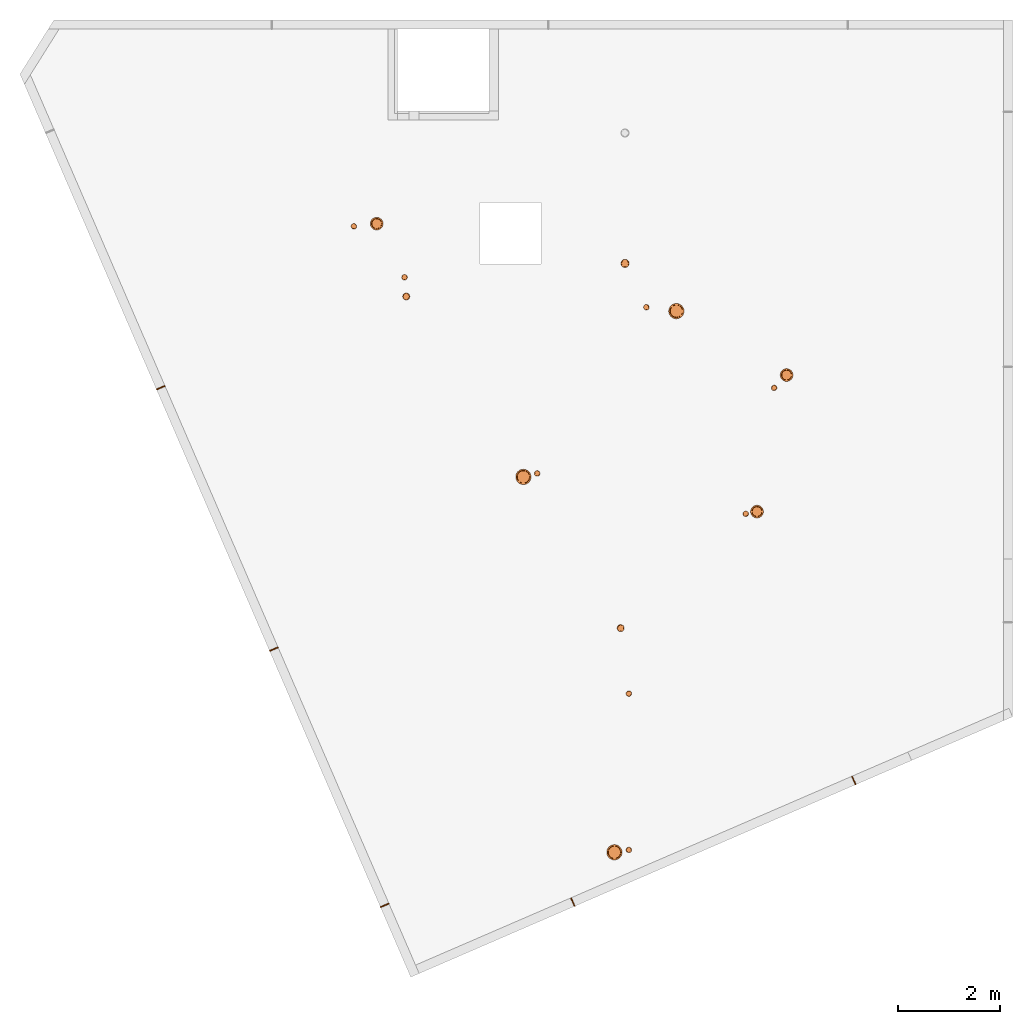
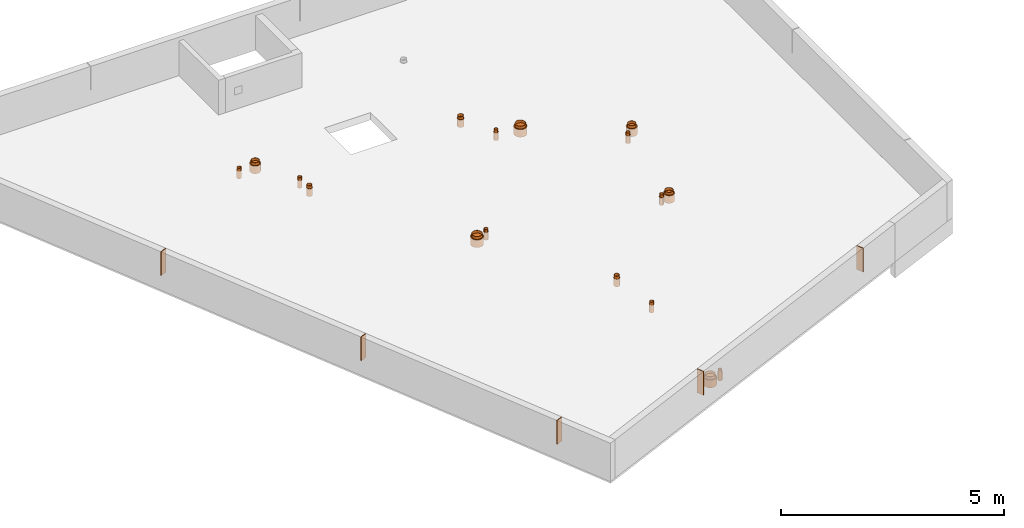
# One storey, part 4 of 12: 22 proxies.
"""IFC2X3 building model written with IfcOpenShell, lengths in centimetres."""

from ifc_helpers import new_model, entity, si_unit, converted_unit, derived_unit, direction, frame, frame_2d, origin, place, context, subcontext, project, spatial, rectangle, circle, hollow_circle, extrude, source, transform, mapped, material, type_object, type_shapes, element, save


model = new_model("IFC2X3")

# Units and contexts
model_context = context("Model", 3, precision=0.001, world=origin(), true_north=direction((6.12303176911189e-17, 1.0)))
body_context = subcontext(model_context, "Body", "Model", "MODEL_VIEW")
ifc_project = project(units=[si_unit("LENGTHUNIT", "METRE", prefix="CENTI"), si_unit("AREAUNIT", "SQUARE_METRE"), si_unit("VOLUMEUNIT", "CUBIC_METRE"), converted_unit("PLANEANGLEUNIT", "DEGREE", entity("IfcRatioMeasure", 0.0174532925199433), si_unit("PLANEANGLEUNIT", "RADIAN"), dimensions=[0, 0, 0, 0, 0, 0, 0]), si_unit("MASSUNIT", "GRAM", prefix="KILO"), derived_unit("MASSDENSITYUNIT", [(si_unit("MASSUNIT", "GRAM", prefix="KILO"), 1), (si_unit("LENGTHUNIT", "METRE"), -3)]), si_unit("TIMEUNIT", "SECOND"), si_unit("FREQUENCYUNIT", "HERTZ"), si_unit("THERMODYNAMICTEMPERATUREUNIT", "DEGREE_CELSIUS"), derived_unit("THERMALTRANSMITTANCEUNIT", [(si_unit("MASSUNIT", "GRAM", prefix="KILO"), 1), (si_unit("THERMODYNAMICTEMPERATUREUNIT", "KELVIN"), -1), (si_unit("TIMEUNIT", "SECOND"), -3)]), derived_unit("VOLUMETRICFLOWRATEUNIT", [(si_unit("LENGTHUNIT", "METRE"), 3), (si_unit("TIMEUNIT", "SECOND"), -1)]), si_unit("ELECTRICCURRENTUNIT", "AMPERE"), si_unit("ELECTRICVOLTAGEUNIT", "VOLT"), si_unit("POWERUNIT", "WATT"), si_unit("FORCEUNIT", "NEWTON"), si_unit("ILLUMINANCEUNIT", "LUX"), si_unit("LUMINOUSFLUXUNIT", "LUMEN"), si_unit("LUMINOUSINTENSITYUNIT", "CANDELA"), derived_unit("USERDEFINED", [(si_unit("MASSUNIT", "GRAM", prefix="KILO"), -1), (si_unit("LENGTHUNIT", "METRE"), -2), (si_unit("TIMEUNIT", "SECOND"), 3), (si_unit("LUMINOUSFLUXUNIT", "LUMEN"), 1)]), derived_unit("LINEARVELOCITYUNIT", [(si_unit("LENGTHUNIT", "METRE"), 1), (si_unit("TIMEUNIT", "SECOND"), -1)]), si_unit("PRESSUREUNIT", "PASCAL"), derived_unit("USERDEFINED", [(si_unit("LENGTHUNIT", "METRE"), -2), (si_unit("MASSUNIT", "GRAM", prefix="KILO"), 1), (si_unit("TIMEUNIT", "SECOND"), -2)])], contexts=[model_context])

# Site, building, storey
site_placement = place(None, origin())
site = spatial("IfcSite", under=ifc_project, at=site_placement, Name="Default", CompositionType="ELEMENT")
building_placement = place(site_placement, origin())
building = spatial("IfcBuilding", under=site, at=building_placement, Name="CAGE 03", CompositionType="ELEMENT")
storey_placement = place(building_placement, frame((0.0, 0.0, 1690.0)))
storey = spatial("IfcBuildingStorey", under=building, at=storey_placement, Name="R+6", CompositionType="ELEMENT", Elevation=1690.0)

# Proxies
ifc_material_1 = material(Name="BBGO_Résa")
building_element_proxy_type_1 = type_object("IfcBuildingElementProxyType", Name="J.F.", PredefinedType="NOTDEFINED", material=ifc_material_1)
shared_shape_1 = source(origin(), body_context, "Body", "SweptSolid", [
    extrude(rectangle(XDim=17.9999999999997, YDim=1.99999999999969, at=frame_2d((3.70370401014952e-13, 3.11528580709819e-13), x_axis=(1.0, 0.0))), frame((3208.69608971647, 4408.08004055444, 1730.0), z_axis=(0.0, 0.0, 1.0), x_axis=(0.917772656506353, 0.397106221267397, 0.0)), (0.0, 0.0, 1.0), 64.9999999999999),
])
type_shapes(building_element_proxy_type_1, [shared_shape_1])
proxy_1_placement = place(storey_placement, frame((0.0, 0.0, -1690.0)))
element("IfcBuildingElementProxy", 1, at=proxy_1_placement, inside=storey, type_object=building_element_proxy_type_1, material=ifc_material_1, Name="BBGO-Résa rect et circ:J.F.", ObjectType="J.F.", context=body_context, shape_type="MappedRepresentation", body=[
    mapped(shared_shape_1, transform((0.0, 0.0, 0.0), scale=1.0)),
])
building_element_proxy_type_2 = type_object("IfcBuildingElementProxyType", Name="J.F.", PredefinedType="NOTDEFINED", material=ifc_material_1)
shared_shape_2 = source(origin(), body_context, "Body", "SweptSolid", [
    extrude(rectangle(XDim=18.0000000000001, YDim=2.00000000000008, at=frame_2d((2.8421709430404e-13, 1.12909681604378e-13), x_axis=(1.0, 0.0))), frame((3430.47991429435, 3895.50401189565, 1730.0), z_axis=(0.0, 0.0, 1.0), x_axis=(0.917772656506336, 0.397106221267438, 0.0)), (0.0, 0.0, 1.0), 64.9999999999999),
])
type_shapes(building_element_proxy_type_2, [shared_shape_2])
proxy_2_placement = place(storey_placement, frame((0.0, 0.0, -1690.0)))
element("IfcBuildingElementProxy", 2, at=proxy_2_placement, inside=storey, type_object=building_element_proxy_type_2, material=ifc_material_1, Name="BBGO-Résa rect et circ:J.F.", ObjectType="J.F.", context=body_context, shape_type="MappedRepresentation", body=[
    mapped(shared_shape_2, transform((0.0, 0.0, 0.0), scale=1.0)),
])
building_element_proxy_type_3 = type_object("IfcBuildingElementProxyType", Name="J.F.", PredefinedType="NOTDEFINED", material=ifc_material_1)
shared_shape_3 = source(origin(), body_context, "Body", "SweptSolid", [
    extrude(rectangle(XDim=18.0000000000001, YDim=2.00000000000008, at=frame_2d((2.8421709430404e-13, 1.12909681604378e-13), x_axis=(1.0, 0.0))), frame((3647.69701732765, 3393.48236878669, 1730.0), z_axis=(0.0, 0.0, 1.0), x_axis=(0.917772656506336, 0.397106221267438, 0.0)), (0.0, 0.0, 1.0), 64.9999999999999),
])
type_shapes(building_element_proxy_type_3, [shared_shape_3])
proxy_3_placement = place(storey_placement, frame((0.0, 0.0, -1690.0)))
element("IfcBuildingElementProxy", 3, at=proxy_3_placement, inside=storey, type_object=building_element_proxy_type_3, material=ifc_material_1, Name="BBGO-Résa rect et circ:J.F.", ObjectType="J.F.", context=body_context, shape_type="MappedRepresentation", body=[
    mapped(shared_shape_3, transform((0.0, 0.0, 0.0), scale=1.0)),
])
building_element_proxy_type_4 = type_object("IfcBuildingElementProxyType", Name="J.F.", PredefinedType="NOTDEFINED", material=ifc_material_1)
shared_shape_4 = source(origin(), body_context, "Body", "SweptSolid", [
    extrude(rectangle(XDim=18.0, YDim=2.00000000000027, at=frame_2d((-1.72306613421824e-13, -3.97237798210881e-13), x_axis=(1.0, 0.0))), frame((4016.45091728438, 3399.94853199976, 1730.0), z_axis=(0.0, 0.0, 1.0), x_axis=(-0.397106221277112, 0.91777265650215, 0.0)), (0.0, 0.0, 1.0), 64.9999999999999),
])
type_shapes(building_element_proxy_type_4, [shared_shape_4])
proxy_4_placement = place(storey_placement, frame((0.0, 0.0, -1690.0)))
element("IfcBuildingElementProxy", 4, at=proxy_4_placement, inside=storey, type_object=building_element_proxy_type_4, material=ifc_material_1, Name="BBGO-Résa rect et circ:J.F.", ObjectType="J.F.", context=body_context, shape_type="MappedRepresentation", body=[
    mapped(shared_shape_4, transform((0.0, 0.0, 0.0), scale=1.0)),
])
building_element_proxy_type_5 = type_object("IfcBuildingElementProxyType", Name="J.F.", PredefinedType="NOTDEFINED", material=ifc_material_1)
shared_shape_5 = source(origin(), body_context, "Body", "SweptSolid", [
    extrude(rectangle(XDim=18.0, YDim=2.00000000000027, at=frame_2d((1.72306613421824e-13, 3.97237798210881e-13), x_axis=(1.0, 0.0))), frame((4567.11451118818, 3638.21226476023, 1730.0), z_axis=(0.0, 0.0, 1.0), x_axis=(-0.397106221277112, 0.91777265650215, 0.0)), (0.0, 0.0, 1.0), 64.9999999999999),
])
type_shapes(building_element_proxy_type_5, [shared_shape_5])
proxy_5_placement = place(storey_placement, frame((0.0, 0.0, -1690.0)))
element("IfcBuildingElementProxy", 5, at=proxy_5_placement, inside=storey, type_object=building_element_proxy_type_5, material=ifc_material_1, Name="BBGO-Résa rect et circ:J.F.", ObjectType="J.F.", context=body_context, shape_type="MappedRepresentation", body=[
    mapped(shared_shape_5, transform((0.0, 0.0, 0.0), scale=1.0)),
])
ifc_material_2 = material(Name="Conduit EP")
building_element_proxy_type_6 = type_object("IfcBuildingElementProxyType", Name="CFO160 P150", PredefinedType="NOTDEFINED", material=ifc_material_2)
shared_shape_6 = source(origin(), body_context, "Body", "SweptSolid", [
    extrude(circle(Radius=8.0, at=frame_2d((0.0, -1.29243565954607e-14), x_axis=(1.0, 0.0))), frame((0.0, 0.0, -21.0)), (0.0, 0.0, 1.0), 21.0),
    extrude(hollow_circle(Radius=7.0, WallThickness=0.25, at=frame_2d((0.0, -1.13088120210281e-14), x_axis=(1.0, 0.0))), frame((0.0, 0.0, -21.0)), (0.0, 0.0, 1.0), 28.5),
])
type_shapes(building_element_proxy_type_6, [shared_shape_6])
proxy_6_placement = place(storey_placement, frame((4118.7448452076, 4651.62070743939, 0.0)))
element("IfcBuildingElementProxy", 6, at=proxy_6_placement, inside=storey, type_object=building_element_proxy_type_6, material=ifc_material_2, Name="Galette - Résa - PVC5:CFO160 P150", ObjectType="CFO160 P150", context=body_context, shape_type="MappedRepresentation", body=[
    mapped(shared_shape_6, transform((0.0, 0.0, 0.0), scale=1.0)),
])
ifc_material_3 = material(Name="Conduit EU")
building_element_proxy_type_7 = type_object("IfcBuildingElementProxyType", Name="CFO125 P110", PredefinedType="NOTDEFINED", material=ifc_material_3)
shared_shape_7 = source(origin(), body_context, "Body", "SweptSolid", [
    extrude(circle(Radius=5.5, at=frame_2d((0.0, -8.88549515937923e-15), x_axis=(1.0, 0.0))), frame((0.0, 0.0, -21.0)), (0.0, 0.0, 1.0), 21.0),
    extrude(hollow_circle(Radius=5.0, WallThickness=0.25, at=frame_2d((0.0, -8.07772287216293e-15), x_axis=(1.0, 0.0))), frame((0.0, 0.0, -21.0)), (0.0, 0.0, 1.0), 28.5),
])
type_shapes(building_element_proxy_type_7, [shared_shape_7])
proxy_7_placement = place(storey_placement, frame((4160.59448652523, 4565.58649100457, 0.0)))
element("IfcBuildingElementProxy", 7, at=proxy_7_placement, inside=storey, type_object=building_element_proxy_type_7, material=ifc_material_3, Name="Galette - Résa - PVC5:CFO125 P110", ObjectType="CFO125 P110", context=body_context, shape_type="MappedRepresentation", body=[
    mapped(shared_shape_7, transform((0.0, 0.0, 0.0), scale=1.0)),
])
proxy_8_placement = place(storey_placement, frame((4355.3205278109, 4160.71828039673, 0.0), z_axis=(0.0, 0.0, 1.0), x_axis=(0.0, -1.0, 0.0)))
element("IfcBuildingElementProxy", 8, at=proxy_8_placement, inside=storey, type_object=building_element_proxy_type_7, material=ifc_material_3, Name="Galette - Résa - PVC5:CFO125 P110", ObjectType="CFO125 P110", context=body_context, shape_type="MappedRepresentation", body=[
    mapped(shared_shape_7, transform((0.0, 0.0, 0.0), scale=1.0)),
])
for number, where, name in (
    (9, (3946.58141975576, 4239.9111842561, 0.0), "Galette - Résa - PVC5:CFO125 P110"),
    (10, (3686.59725003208, 4624.40274501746, 0.0), "Galette - Résa - PVC5:CFO125 P110"),
    (11, (3587.36582014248, 4724.25412243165, 0.0), "Galette - Résa - PVC5:CFO125 P110"),
    (12, (4126.31850092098, 3502.00058207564, 0.0), "Galette - Résa - PVC5:CFO125 P110"),
    (13, (4126.31717575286, 3808.43638947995, 0.0), "Galette - Résa - PVC5:CFO125 P110"),
    (14, (4410.96893083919, 4407.5703164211, 0.0), "Galette - Résa - PVC5:CFO125 P110"),
):
    element("IfcBuildingElementProxy", number, at=place(storey_placement, frame(where)), inside=storey, type_object=building_element_proxy_type_7, material=ifc_material_3, Name=name, ObjectType="CFO125 P110", context=body_context, shape_type="MappedRepresentation", body=[
        mapped(shared_shape_7, transform((0.0, 0.0, 0.0), scale=1.0)),
    ])
ifc_material_4 = material(Name="Conduit VMC")
building_element_proxy_type_8 = type_object("IfcBuildingElementProxyType", Name="CFO235 P210", PredefinedType="NOTDEFINED", material=ifc_material_4)
shared_shape_8 = source(origin(), body_context, "Body", "SweptSolid", [
    extrude(circle(Radius=12.5, at=frame_2d((0.0, -2.01943071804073e-14), x_axis=(1.0, 0.0))), frame((0.0, 0.0, -21.0)), (0.0, 0.0, 1.0), 21.0),
    extrude(hollow_circle(Radius=10.0, WallThickness=0.5, at=frame_2d((0.0, -1.61554457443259e-14), x_axis=(1.0, 0.0))), frame((0.0, 0.0, -21.0)), (0.0, 0.0, 1.0), 28.5),
])
type_shapes(building_element_proxy_type_8, [shared_shape_8])
for number, where, name in (
    (15, (4377.42366313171, 4165.21831435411, 0.0), "Galette - Résa - PVC5:CFO235 P210"),
    (16, (3632.02185080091, 4729.49517597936, 0.0), "Galette - Résa - PVC5:CFO235 P210"),
    (17, (4435.39443367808, 4432.79159406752, 0.0), "Galette - Résa - PVC5:CFO235 P210"),
):
    element("IfcBuildingElementProxy", number, at=place(storey_placement, frame(where)), inside=storey, type_object=building_element_proxy_type_8, material=ifc_material_4, Name=name, ObjectType="CFO235 P210", context=body_context, shape_type="MappedRepresentation", body=[
        mapped(shared_shape_8, transform((0.0, 0.0, 0.0), scale=1.0)),
    ])
building_element_proxy_type_9 = type_object("IfcBuildingElementProxyType", Name="CFO285 P260", PredefinedType="NOTDEFINED", material=ifc_material_4)
shared_shape_9 = source(origin(), body_context, "Body", "SweptSolid", [
    extrude(circle(Radius=15.0, at=frame_2d((0.0, -2.42331686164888e-14), x_axis=(1.0, 0.0))), frame((0.0, 0.0, -21.0)), (0.0, 0.0, 1.0), 21.0),
    extrude(hollow_circle(Radius=12.5, WallThickness=0.499999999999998, at=frame_2d((0.0, -2.01943071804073e-14), x_axis=(1.0, 0.0))), frame((0.0, 0.0, -21.0)), (0.0, 0.0, 1.0), 28.5),
])
type_shapes(building_element_proxy_type_9, [shared_shape_9])
for number, where, name in (
    (18, (4219.38313544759, 4558.04776713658, 0.0), "Galette - Résa - PVC5:CFO285 P260"),
    (19, (3919.58915427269, 4233.21735522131, 0.0), "Galette - Résa - PVC5:CFO285 P260"),
    (20, (4097.97968134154, 3497.41821904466, 0.0), "Galette - Résa - PVC5:CFO285 P260"),
):
    element("IfcBuildingElementProxy", number, at=place(storey_placement, frame(where)), inside=storey, type_object=building_element_proxy_type_9, material=ifc_material_4, Name=name, ObjectType="CFO285 P260", context=body_context, shape_type="MappedRepresentation", body=[
        mapped(shared_shape_9, transform((0.0, 0.0, 0.0), scale=1.0)),
    ])
building_element_proxy_type_10 = type_object("IfcBuildingElementProxyType", Name="CFO140 P135", PredefinedType="NOTDEFINED", material=ifc_material_4)
shared_shape_10 = source(origin(), body_context, "Body", "SweptSolid", [
    extrude(circle(Radius=7.0, at=frame_2d((0.0, -1.13088120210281e-14), x_axis=(1.0, 0.0))), frame((0.0, 0.0, -21.0)), (0.0, 0.0, 1.0), 21.0),
    extrude(hollow_circle(Radius=6.25, WallThickness=0.25, at=frame_2d((0.0, -1.00971535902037e-14), x_axis=(1.0, 0.0))), frame((0.0, 0.0, -21.0)), (0.0, 0.0, 1.0), 28.5),
])
type_shapes(building_element_proxy_type_10, [shared_shape_10])
for number, where, name in (
    (21, (3689.94303240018, 4586.72548432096, 0.0), "Galette - Résa - PVC5:CFO140 P135"),
    (22, (4110.24717054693, 3936.71833808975, 0.0), "Galette - Résa - PVC5:CFO140 P135"),
):
    element("IfcBuildingElementProxy", number, at=place(storey_placement, frame(where)), inside=storey, type_object=building_element_proxy_type_10, material=ifc_material_4, Name=name, ObjectType="CFO140 P135", context=body_context, shape_type="MappedRepresentation", body=[
        mapped(shared_shape_10, transform((0.0, 0.0, 0.0), scale=1.0)),
    ])

save(model, "model.ifc")
